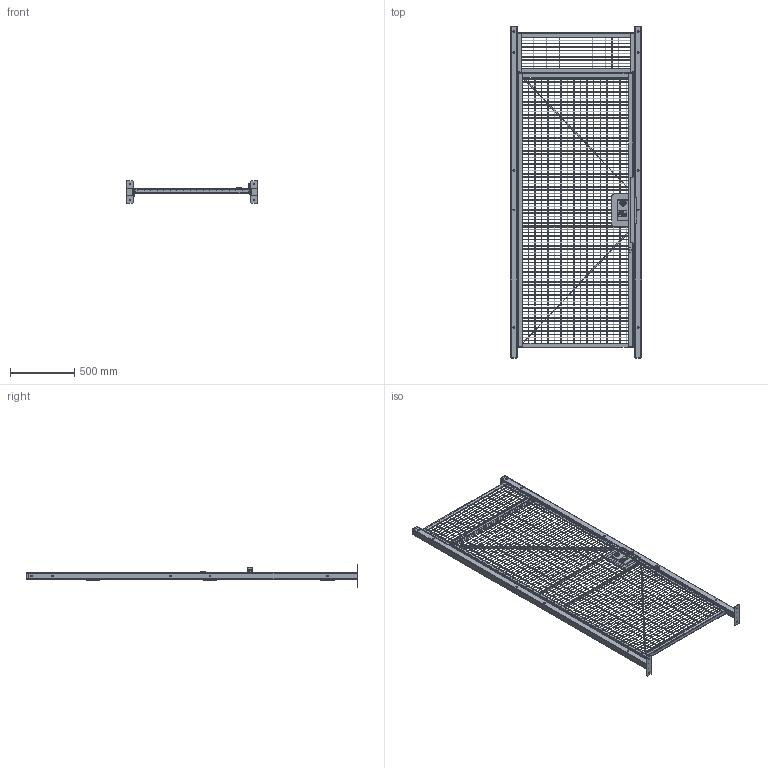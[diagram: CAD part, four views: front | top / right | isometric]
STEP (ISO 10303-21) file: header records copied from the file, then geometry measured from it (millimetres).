
FILE_DESCRIPTION (( 'STEP AP214' ), '1' );
FILE_NAME ('HD378LH.STEP', '2021-03-30T19:37:30', ( '' ), ( '' ), 'SwSTEP 2.0', 'SolidWorks 2021', '' );
FILE_SCHEMA (( 'AUTOMOTIVE_DESIGN' ));
Length unit declared in the file: inch
Products named in the file (34): COMMON FLAT BAR_PXHD3FD; HDLKPLATEB; HDFLPLLI; COMMON WIRE_10GA X 35; SF-1 LATCH; HDLKPLATEF; POST CAP; XXHDHG441.STEP; COMMON BASE PLATE_BP27; COMMON STRU ANGLE 11418_PX1; COMMON WIRE_10GA X 83; COMMON 840 HINGE DOOR_HD3 LH; COMMON STRU ANGLE 11418_PX3PC; COMMON WIRE_10GA X 34; COMMON 840 POST WELD_DP8P; COMMON 840 HDT TOP COPE_HDT31; COMMON MESH_MHHD3; COMMON MESH_MHT31; SB-1; COMMON STRU ANGLE 11418_PXHD7PL; HDANPLL; HINGE1.stp.STEP; HINGE2 CORRECT.stp.STEP; COMMON STRU ANGLE 11418_PXHD7PX; COMMON WIRE_10GA X 11; HDCPLI; PIN.stp.STEP; COMMON STRU ANGLE 11418_PXHD3XC; COMMON 840 POST_DP8P; HDHG441 NEW; HD378LH; HDLRLI; COMMON FLAT BAR_PXHD3FH
Assembly tree (166 placements, depth 5):
  HD378LH
    COMMON 840 POST WELD_DP8P  x2
      COMMON BASE PLATE_BP27
      COMMON 840 POST_DP8P
      POST CAP
    COMMON 840 HDT TOP COPE_HDT31
      COMMON STRU ANGLE 11418_PX3PC  x2
      COMMON STRU ANGLE 11418_PX1  x2
      COMMON MESH_MHT31
        COMMON WIRE_10GA X 35  x11
        COMMON WIRE_10GA X 11  x18
    COMMON 840 HINGE DOOR_HD3 LH
      COMMON STRU ANGLE 11418_PXHD3XC  x2
      COMMON STRU ANGLE 11418_PXHD7PX
      COMMON STRU ANGLE 11418_PXHD7PL
      HDLKPLATEF
      HDLKPLATEB
      COMMON FLAT BAR_PXHD3FH  x2
      COMMON FLAT BAR_PXHD3FD  x2
      HDANPLL
      HDFLPLLI
      COMMON MESH_MHHD3
        COMMON WIRE_10GA X 34  x83
        COMMON WIRE_10GA X 83  x17
      HDHG441 NEW  x3
        XXHDHG441.STEP
          HINGE1.stp.STEP
          HINGE2 CORRECT.stp.STEP
          PIN.stp.STEP
      HDCPLI
      SF-1 LATCH
        SF-1 LATCH
        SB-1
      HDLRLI
Bounding box: 1016 x 2575.56 x 177.8 mm (x, y, z)
Volume: 5824205.4 mm3; surface area: 4971271.8 mm2
Topology: 168 solids, 168 shells, 1827 faces, 4140 edges, 2711 vertices
Faces by surface type: plane 1081, cylinder 519, bspline 180, torus 22, cone 21, sphere 4
Full cylindrical faces by diameter (mm): 3.429 x129, 5.182 x4, 7.112 x3, 7.144 x12, 11.112 x5, 12.7 x51, 14.021 x1, 14.046 x1, 34.049 x1, 35.687 x1, 38.862 x1, 44.704 x1, 45.822 x1
Entity records: 47699 total; most frequent: CARTESIAN_POINT 18340, ORIENTED_EDGE 5654, DIRECTION 5274, EDGE_CURVE 2827, VERTEX_POINT 1874, LINE 1844, VECTOR 1844, AXIS2_PLACEMENT_3D 1715
